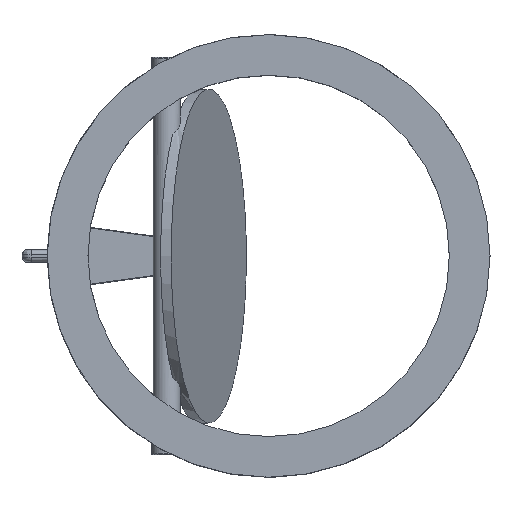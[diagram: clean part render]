
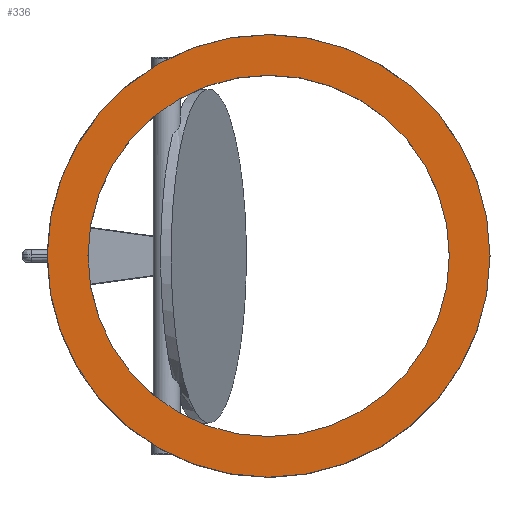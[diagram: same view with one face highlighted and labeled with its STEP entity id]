
A CAD part, top view. The second image highlights one B-rep face of the part: STEP entity #336.
In plain terms, the highlighted planar face has unit normal (0, 0, 1).
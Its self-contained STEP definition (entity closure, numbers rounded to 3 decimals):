
#336 = ADVANCED_FACE( '', ( #853, #854 ), #855, .F. );
#853 = FACE_OUTER_BOUND( '', #5015, .T. );
#854 = FACE_BOUND( '', #5016, .T. );
#855 = PLANE( '', #5017 );
#5015 = EDGE_LOOP( '', ( #14213 ) );
#5016 = EDGE_LOOP( '', ( #14214 ) );
#5017 = AXIS2_PLACEMENT_3D( '', #14215, #14216, #14217 );
#14213 = ORIENTED_EDGE( '', *, *, #15772, .F. );
#14214 = ORIENTED_EDGE( '', *, *, #15728, .F. );
#14215 = CARTESIAN_POINT( '', ( 0., 0., 89. ) );
#14216 = DIRECTION( '', ( 0., 0., -1. ) );
#14217 = DIRECTION( '', ( -1., 0., 0. ) );
#15728 = EDGE_CURVE( '', #16578, #16578, #16579, .T. );
#15772 = EDGE_CURVE( '', #16651, #16651, #16652, .T. );
#16578 = VERTEX_POINT( '', #20155 );
#16579 = CIRCLE( '', #20156, 300. );
#16651 = VERTEX_POINT( '', #20938 );
#16652 = CIRCLE( '', #20939, 367.5 );
#20155 = CARTESIAN_POINT( '', ( 0., -300., 89. ) );
#20156 = AXIS2_PLACEMENT_3D( '', #27533, #27534, #27535 );
#20938 = CARTESIAN_POINT( '', ( 367.5, 0., 89. ) );
#20939 = AXIS2_PLACEMENT_3D( '', #27560, #27561, #27562 );
#27533 = CARTESIAN_POINT( '', ( 0., 0., 89. ) );
#27534 = DIRECTION( '', ( 0., 0., 1. ) );
#27535 = DIRECTION( '', ( 0., -1., 0. ) );
#27560 = CARTESIAN_POINT( '', ( 0., 0., 89. ) );
#27561 = DIRECTION( '', ( 0., 0., -1. ) );
#27562 = DIRECTION( '', ( 1., 0., 0. ) );
